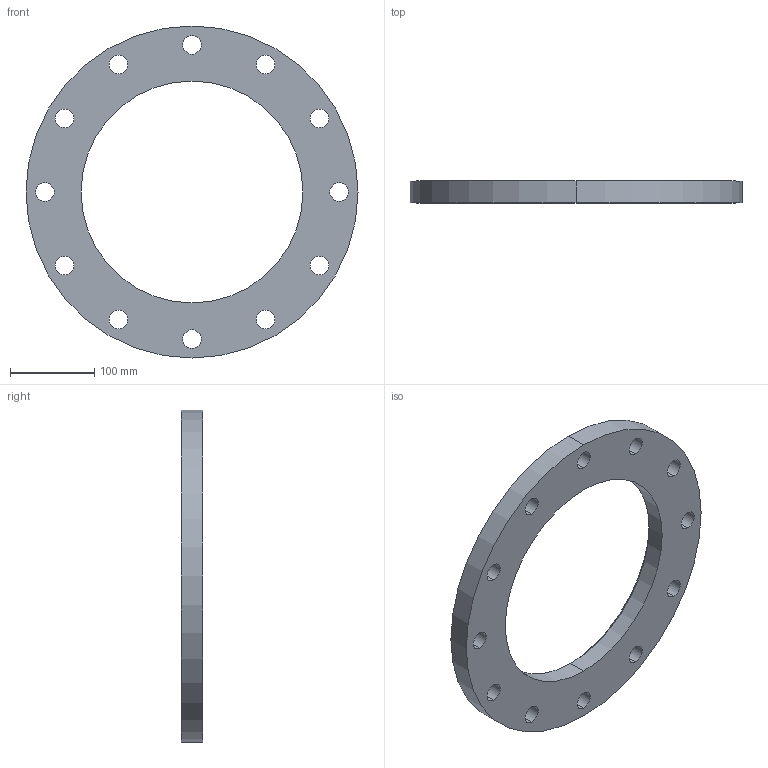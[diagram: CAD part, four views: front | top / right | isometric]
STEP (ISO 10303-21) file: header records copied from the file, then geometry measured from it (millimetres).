
FILE_DESCRIPTION (( 'STEP AP203' ), '1' );
FILE_NAME ('3D_R189_PN10_DN254_17669370.STEP', '2024-08-12T10:56:44', ( '' ), ( '' ), 'SwSTEP 2.0', 'SolidWorks 2024', '' );
FILE_SCHEMA (( 'CONFIG_CONTROL_DESIGN' ));
Length unit declared in the file: millimetre
Products named in the file (1): 3D_R189_PN10_DN254_17669370
Bounding box: 395 x 26 x 395 mm (x, y, z)
Volume: 1637565.1 mm3; surface area: 199951.5 mm2
Topology: 1 solids, 1 shells, 32 faces, 88 edges, 58 vertices
Faces by surface type: cylinder 28, cone 2, plane 2
Entity records: 1183 total; most frequent: DIRECTION 212, CARTESIAN_POINT 179, ORIENTED_EDGE 176, AXIS2_PLACEMENT_3D 91, EDGE_CURVE 88, CIRCLE 58, VERTEX_POINT 58, EDGE_LOOP 58
